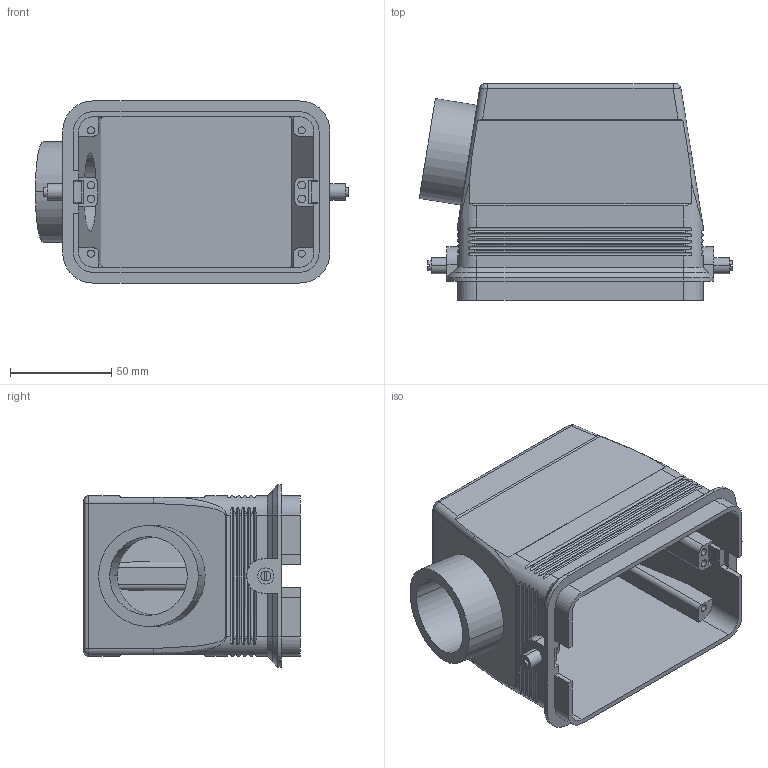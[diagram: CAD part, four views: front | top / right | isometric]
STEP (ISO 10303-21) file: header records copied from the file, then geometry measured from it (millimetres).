
FILE_DESCRIPTION (( 'STEP AP214' ), '1' );
FILE_NAME ('CHOT-48.7L.STEP', '2013-06-24T19:33:09', ( 'Mencom User' ), ( 'Hewlett-Packard Company' ), 'SwSTEP 2.0', 'SolidWorks 2013', '' );
FILE_SCHEMA (( 'AUTOMOTIVE_DESIGN' ));
Length unit declared in the file: inch
Products named in the file (1): CHOT-48.7L
Bounding box: 154.75 x 106.93 x 89.92 mm (x, y, z)
Volume: 159459.5 mm3; surface area: 105496.7 mm2
Topology: 1 solids, 1 shells, 302 faces, 825 edges, 542 vertices
Faces by surface type: cylinder 149, plane 133, cone 12, bspline 8
Entity records: 11532 total; most frequent: CARTESIAN_POINT 3540, ORIENTED_EDGE 1650, DIRECTION 1377, EDGE_CURVE 825, VERTEX_POINT 542, LINE 471, VECTOR 471, AXIS2_PLACEMENT_3D 453
